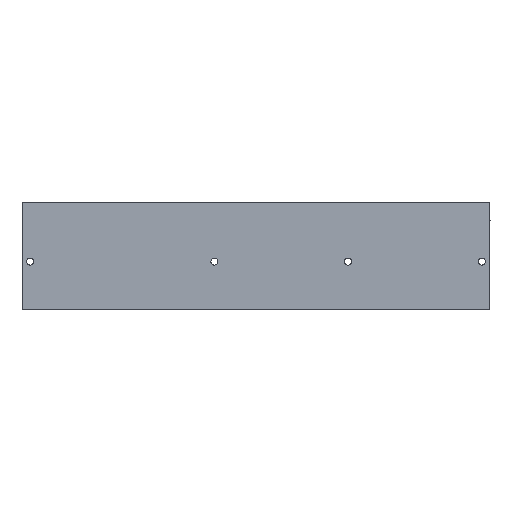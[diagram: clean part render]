
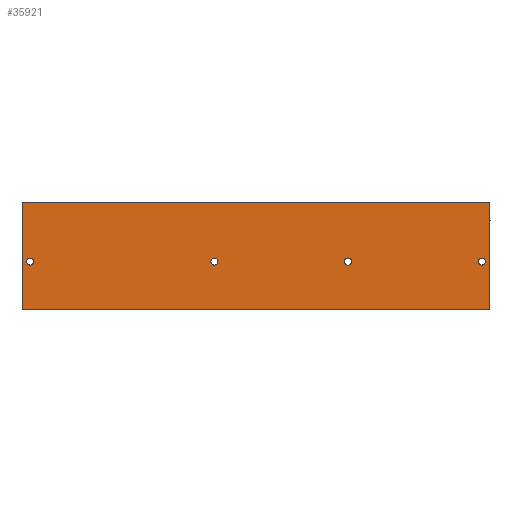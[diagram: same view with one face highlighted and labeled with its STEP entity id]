
A CAD part, front view. The second image highlights one B-rep face of the part: STEP entity #35921.
In plain terms, the highlighted planar face has unit normal (0, -1, 0).
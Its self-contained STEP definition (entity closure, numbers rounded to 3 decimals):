
#364 = AXIS2_PLACEMENT_3D ( 'NONE', #30372, #12389, #33474 ) ;
#527 = VERTEX_POINT ( 'NONE', #8766 ) ;
#801 = CARTESIAN_POINT ( 'NONE',  ( 22.75, 0., -5.25 ) ) ;
#975 = DIRECTION ( 'NONE',  ( 0., 0., 1. ) ) ;
#1131 = AXIS2_PLACEMENT_3D ( 'NONE', #22869, #4823, #25864 ) ;
#1251 = ORIENTED_EDGE ( 'NONE', *, *, #33892, .F. ) ;
#1506 = CIRCLE ( 'NONE', #13463, 0.172 ) ;
#2167 = DIRECTION ( 'NONE',  ( 0., 1., 0. ) ) ;
#2193 = ORIENTED_EDGE ( 'NONE', *, *, #22127, .F. ) ;
#2215 = AXIS2_PLACEMENT_3D ( 'NONE', #12171, #33260, #15204 ) ;
#2424 = VECTOR ( 'NONE', #29211, 39.37 ) ;
#3199 = ORIENTED_EDGE ( 'NONE', *, *, #35692, .T. ) ;
#3473 = EDGE_CURVE ( 'NONE', #18503, #8558, #16390, .T. ) ;
#3542 = VERTEX_POINT ( 'NONE', #38708 ) ;
#3655 = CARTESIAN_POINT ( 'NONE',  ( 0.4, 0., -3.072 ) ) ;
#3751 = FACE_OUTER_BOUND ( 'NONE', #34545, .T. ) ;
#4823 = DIRECTION ( 'NONE',  ( 0., 1., 0. ) ) ;
#5063 = VERTEX_POINT ( 'NONE', #3655 ) ;
#6428 = ORIENTED_EDGE ( 'NONE', *, *, #3473, .T. ) ;
#7552 = CARTESIAN_POINT ( 'NONE',  ( 22.35, 0., -2.9 ) ) ;
#7608 = VERTEX_POINT ( 'NONE', #801 ) ;
#8156 = CARTESIAN_POINT ( 'NONE',  ( 22.75, 0., 0. ) ) ;
#8205 = CARTESIAN_POINT ( 'NONE',  ( 15.85, 0., -2.9 ) ) ;
#8480 = AXIS2_PLACEMENT_3D ( 'NONE', #37298, #19213, #975 ) ;
#8558 = VERTEX_POINT ( 'NONE', #17470 ) ;
#8629 = DIRECTION ( 'NONE',  ( -1., 0., 0. ) ) ;
#8766 = CARTESIAN_POINT ( 'NONE',  ( 15.85, 0., -3.072 ) ) ;
#8833 = LINE ( 'NONE', #26616, #23861 ) ;
#9656 = CARTESIAN_POINT ( 'NONE',  ( 0., 0., 0. ) ) ;
#10115 = PLANE ( 'NONE',  #8480 ) ;
#10619 = DIRECTION ( 'NONE',  ( 0., 0., 1. ) ) ;
#10643 = CIRCLE ( 'NONE', #364, 0.172 ) ;
#11140 = CIRCLE ( 'NONE', #1131, 0.172 ) ;
#11283 = DIRECTION ( 'NONE',  ( 0., 0., 1. ) ) ;
#11882 = FACE_BOUND ( 'NONE', #33620, .T. ) ;
#12171 = CARTESIAN_POINT ( 'NONE',  ( 9.35, 0., -2.9 ) ) ;
#12389 = DIRECTION ( 'NONE',  ( 0., 1., 0. ) ) ;
#12449 = VERTEX_POINT ( 'NONE', #37752 ) ;
#12556 = EDGE_CURVE ( 'NONE', #5063, #19021, #24452, .T. ) ;
#12834 = FACE_BOUND ( 'NONE', #23166, .T. ) ;
#13463 = AXIS2_PLACEMENT_3D ( 'NONE', #8205, #29268, #11283 ) ;
#13536 = CIRCLE ( 'NONE', #2215, 0.172 ) ;
#15204 = DIRECTION ( 'NONE',  ( 0., 0., 1. ) ) ;
#15500 = VERTEX_POINT ( 'NONE', #33899 ) ;
#15546 = CIRCLE ( 'NONE', #31998, 0.172 ) ;
#15884 = CARTESIAN_POINT ( 'NONE',  ( 9.35, 0., -3.072 ) ) ;
#16390 = CIRCLE ( 'NONE', #20740, 0.172 ) ;
#17016 = CARTESIAN_POINT ( 'NONE',  ( 0.4, 0., -2.9 ) ) ;
#17470 = CARTESIAN_POINT ( 'NONE',  ( 9.35, 0., -2.728 ) ) ;
#17650 = LINE ( 'NONE', #8156, #2424 ) ;
#18503 = VERTEX_POINT ( 'NONE', #15884 ) ;
#18817 = ORIENTED_EDGE ( 'NONE', *, *, #33662, .T. ) ;
#19021 = VERTEX_POINT ( 'NONE', #37026 ) ;
#19213 = DIRECTION ( 'NONE',  ( 0., 1., 0. ) ) ;
#19275 = ORIENTED_EDGE ( 'NONE', *, *, #33282, .T. ) ;
#19381 = CARTESIAN_POINT ( 'NONE',  ( 0., 0., 0. ) ) ;
#19854 = FACE_BOUND ( 'NONE', #21311, .T. ) ;
#20014 = DIRECTION ( 'NONE',  ( 0., 0., 1. ) ) ;
#20334 = CARTESIAN_POINT ( 'NONE',  ( 22.35, 0., -2.9 ) ) ;
#20339 = AXIS2_PLACEMENT_3D ( 'NONE', #7552, #28590, #10619 ) ;
#20740 = AXIS2_PLACEMENT_3D ( 'NONE', #38874, #38837, #38791 ) ;
#20908 = DIRECTION ( 'NONE',  ( -1., 0., 0. ) ) ;
#21269 = VECTOR ( 'NONE', #20908, 39.37 ) ;
#21311 = EDGE_LOOP ( 'NONE', ( #21972, #6428 ) ) ;
#21972 = ORIENTED_EDGE ( 'NONE', *, *, #32506, .T. ) ;
#22041 = ORIENTED_EDGE ( 'NONE', *, *, #37940, .T. ) ;
#22127 = EDGE_CURVE ( 'NONE', #7608, #33943, #8833, .T. ) ;
#22869 = CARTESIAN_POINT ( 'NONE',  ( 15.85, 0., -2.9 ) ) ;
#23166 = EDGE_LOOP ( 'NONE', ( #29624, #36314 ) ) ;
#23305 = DIRECTION ( 'NONE',  ( 0., 0., 1. ) ) ;
#23861 = VECTOR ( 'NONE', #8629, 39.37 ) ;
#24452 = CIRCLE ( 'NONE', #28586, 0.172 ) ;
#24590 = DIRECTION ( 'NONE',  ( 0., 0., -1. ) ) ;
#25864 = DIRECTION ( 'NONE',  ( 0., 0., 1. ) ) ;
#26616 = CARTESIAN_POINT ( 'NONE',  ( 22.75, 0., -5.25 ) ) ;
#26993 = VECTOR ( 'NONE', #24590, 39.37 ) ;
#27803 = FACE_BOUND ( 'NONE', #38886, .T. ) ;
#28586 = AXIS2_PLACEMENT_3D ( 'NONE', #17016, #38161, #20014 ) ;
#28590 = DIRECTION ( 'NONE',  ( 0., 1., 0. ) ) ;
#28755 = EDGE_CURVE ( 'NONE', #527, #12449, #1506, .T. ) ;
#29211 = DIRECTION ( 'NONE',  ( 0., 0., -1. ) ) ;
#29268 = DIRECTION ( 'NONE',  ( 0., 1., 0. ) ) ;
#29275 = LINE ( 'NONE', #39102, #21269 ) ;
#29624 = ORIENTED_EDGE ( 'NONE', *, *, #33034, .T. ) ;
#30029 = ORIENTED_EDGE ( 'NONE', *, *, #32796, .T. ) ;
#30372 = CARTESIAN_POINT ( 'NONE',  ( 0.4, 0., -2.9 ) ) ;
#30883 = VERTEX_POINT ( 'NONE', #32790 ) ;
#31382 = VERTEX_POINT ( 'NONE', #19381 ) ;
#31998 = AXIS2_PLACEMENT_3D ( 'NONE', #20334, #2167, #23305 ) ;
#32506 = EDGE_CURVE ( 'NONE', #8558, #18503, #13536, .T. ) ;
#32790 = CARTESIAN_POINT ( 'NONE',  ( 22.35, 0., -3.072 ) ) ;
#32796 = EDGE_CURVE ( 'NONE', #12449, #527, #11140, .T. ) ;
#33034 = EDGE_CURVE ( 'NONE', #19021, #5063, #10643, .T. ) ;
#33260 = DIRECTION ( 'NONE',  ( 0., 1., 0. ) ) ;
#33267 = CIRCLE ( 'NONE', #20339, 0.172 ) ;
#33282 = EDGE_CURVE ( 'NONE', #3542, #30883, #33267, .T. ) ;
#33474 = DIRECTION ( 'NONE',  ( 0., 0., 1. ) ) ;
#33620 = EDGE_LOOP ( 'NONE', ( #19275, #22041 ) ) ;
#33662 = EDGE_CURVE ( 'NONE', #31382, #33943, #36075, .T. ) ;
#33892 = EDGE_CURVE ( 'NONE', #15500, #7608, #17650, .T. ) ;
#33899 = CARTESIAN_POINT ( 'NONE',  ( 22.75, 0., 0. ) ) ;
#33943 = VERTEX_POINT ( 'NONE', #38592 ) ;
#34545 = EDGE_LOOP ( 'NONE', ( #18817, #2193, #1251, #3199 ) ) ;
#35692 = EDGE_CURVE ( 'NONE', #15500, #31382, #29275, .T. ) ;
#35921 = ADVANCED_FACE ( 'NONE', ( #19854, #27803, #12834, #11882, #3751 ), #10115, .F. ) ;
#36075 = LINE ( 'NONE', #9656, #26993 ) ;
#36314 = ORIENTED_EDGE ( 'NONE', *, *, #12556, .T. ) ;
#37026 = CARTESIAN_POINT ( 'NONE',  ( 0.4, 0., -2.728 ) ) ;
#37298 = CARTESIAN_POINT ( 'NONE',  ( 22.75, 0., 0. ) ) ;
#37752 = CARTESIAN_POINT ( 'NONE',  ( 15.85, 0., -2.728 ) ) ;
#37940 = EDGE_CURVE ( 'NONE', #30883, #3542, #15546, .T. ) ;
#38161 = DIRECTION ( 'NONE',  ( 0., 1., 0. ) ) ;
#38221 = ORIENTED_EDGE ( 'NONE', *, *, #28755, .T. ) ;
#38592 = CARTESIAN_POINT ( 'NONE',  ( 0., 0., -5.25 ) ) ;
#38708 = CARTESIAN_POINT ( 'NONE',  ( 22.35, 0., -2.728 ) ) ;
#38791 = DIRECTION ( 'NONE',  ( 0., 0., 1. ) ) ;
#38837 = DIRECTION ( 'NONE',  ( 0., 1., 0. ) ) ;
#38874 = CARTESIAN_POINT ( 'NONE',  ( 9.35, 0., -2.9 ) ) ;
#38886 = EDGE_LOOP ( 'NONE', ( #30029, #38221 ) ) ;
#39102 = CARTESIAN_POINT ( 'NONE',  ( 22.75, 0., 0. ) ) ;
